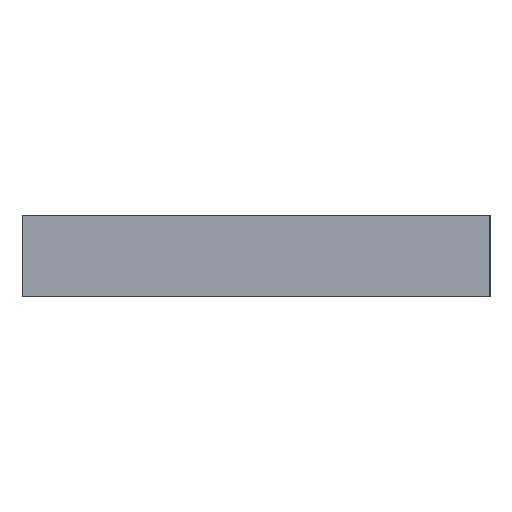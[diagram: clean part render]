
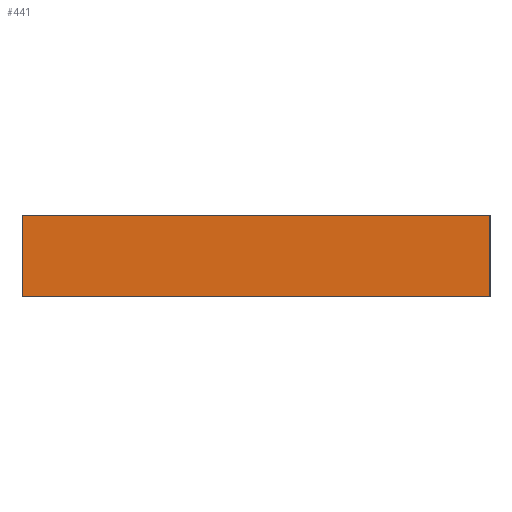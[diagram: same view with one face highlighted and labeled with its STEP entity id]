
A CAD part, left-side view. The second image highlights one B-rep face of the part: STEP entity #441.
In plain terms, the highlighted planar face has unit normal (-1, 0, 0).
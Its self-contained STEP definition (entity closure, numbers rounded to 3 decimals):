
#310 = VERTEX_POINT ( 'NONE', #1275 ) ;
#312 = EDGE_CURVE ( 'NONE', #313, #536, #1273, .T. ) ;
#313 = VERTEX_POINT ( 'NONE', #1401 ) ;
#441 = ADVANCED_FACE ( 'NONE', ( #1531 ), #1458, .T. ) ;
#442 = EDGE_LOOP ( 'NONE', ( #443, #444, #445, #447 ) ) ;
#443 = ORIENTED_EDGE ( 'NONE', *, *, #312, .T. ) ;
#444 = ORIENTED_EDGE ( 'NONE', *, *, #581, .T. ) ;
#445 = ORIENTED_EDGE ( 'NONE', *, *, #446, .F. ) ;
#446 = EDGE_CURVE ( 'NONE', #310, #579, #1453, .T. ) ;
#447 = ORIENTED_EDGE ( 'NONE', *, *, #472, .T. ) ;
#472 = EDGE_CURVE ( 'NONE', #310, #313, #1484, .T. ) ;
#536 = VERTEX_POINT ( 'NONE', #1771 ) ;
#579 = VERTEX_POINT ( 'NONE', #1839 ) ;
#581 = EDGE_CURVE ( 'NONE', #536, #579, #1838, .T. ) ;
#1270 = DIRECTION ( 'NONE',  ( 0., 0., 1. ) ) ;
#1271 = VECTOR ( 'NONE', #1270, 1000. ) ;
#1272 = CARTESIAN_POINT ( 'NONE',  ( -98., -78., 0. ) ) ;
#1273 = LINE ( 'NONE', #1272, #1271 ) ;
#1275 = CARTESIAN_POINT ( 'NONE',  ( -98., 78., 0. ) ) ;
#1401 = CARTESIAN_POINT ( 'NONE',  ( -98., -78., 0. ) ) ;
#1450 = DIRECTION ( 'NONE',  ( 0., 0., 1. ) ) ;
#1451 = VECTOR ( 'NONE', #1450, 1000. ) ;
#1452 = CARTESIAN_POINT ( 'NONE',  ( -98., 78., 0. ) ) ;
#1453 = LINE ( 'NONE', #1452, #1451 ) ;
#1454 = DIRECTION ( 'NONE',  ( 0., 0., 1. ) ) ;
#1455 = DIRECTION ( 'NONE',  ( -1., 0., 0. ) ) ;
#1456 = CARTESIAN_POINT ( 'NONE',  ( -98., 0., 0. ) ) ;
#1457 = AXIS2_PLACEMENT_3D ( 'NONE', #1456, #1455, #1454 ) ;
#1458 = PLANE ( 'NONE',  #1457 ) ;
#1481 = DIRECTION ( 'NONE',  ( 0., -1., 0. ) ) ;
#1482 = VECTOR ( 'NONE', #1481, 1000. ) ;
#1483 = CARTESIAN_POINT ( 'NONE',  ( -98., 0., 0. ) ) ;
#1484 = LINE ( 'NONE', #1483, #1482 ) ;
#1531 = FACE_OUTER_BOUND ( 'NONE', #442, .T. ) ;
#1771 = CARTESIAN_POINT ( 'NONE',  ( -98., -78., 27. ) ) ;
#1835 = DIRECTION ( 'NONE',  ( 0., 1., 0. ) ) ;
#1836 = VECTOR ( 'NONE', #1835, 1000. ) ;
#1837 = CARTESIAN_POINT ( 'NONE',  ( -98., 0., 27. ) ) ;
#1838 = LINE ( 'NONE', #1837, #1836 ) ;
#1839 = CARTESIAN_POINT ( 'NONE',  ( -98., 78., 27. ) ) ;
